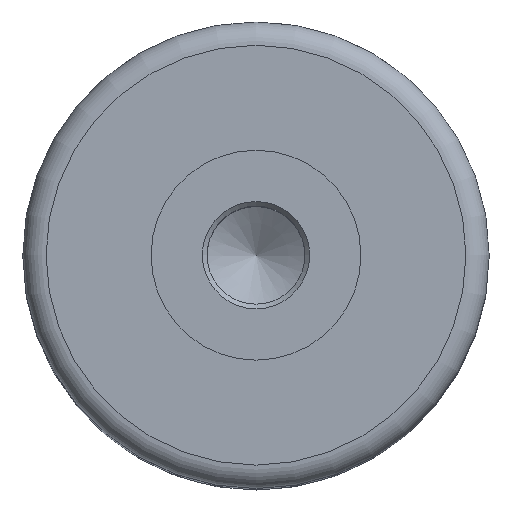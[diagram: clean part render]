
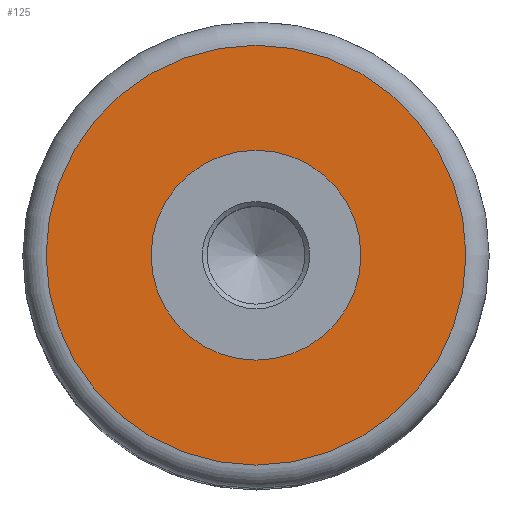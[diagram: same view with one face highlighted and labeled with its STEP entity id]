
A CAD part, top view. The second image highlights one B-rep face of the part: STEP entity #125.
In plain terms, the highlighted planar face has unit normal (0, 0, 1).
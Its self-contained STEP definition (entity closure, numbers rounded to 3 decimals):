
#125=ADVANCED_FACE('',(#219,#220),#221,.T.);
#219=FACE_BOUND('',#304,.T.);
#220=FACE_OUTER_BOUND('',#305,.T.);
#221=PLANE('',#306);
#304=EDGE_LOOP('',(#409));
#305=EDGE_LOOP('',(#410));
#306=AXIS2_PLACEMENT_3D('',#411,#412,#413);
#409=ORIENTED_EDGE('',*,*,#472,.F.);
#410=ORIENTED_EDGE('',*,*,#469,.T.);
#411=CARTESIAN_POINT('',(0.0,0.0,20.0));
#412=DIRECTION('',(0.0,0.0,1.0));
#413=DIRECTION('',(1.0,0.0,0.0));
#469=EDGE_CURVE('',#521,#521,#522,.T.);
#472=EDGE_CURVE('',#526,#526,#527,.T.);
#521=VERTEX_POINT('',#733);
#522=CIRCLE('',#734,9.0);
#526=VERTEX_POINT('',#738);
#527=CIRCLE('',#739,4.5);
#733=CARTESIAN_POINT('',(9.0,0.0,20.0));
#734=AXIS2_PLACEMENT_3D('',#788,#789,#790);
#738=CARTESIAN_POINT('',(4.5,0.0,20.0));
#739=AXIS2_PLACEMENT_3D('',#794,#795,#796);
#788=CARTESIAN_POINT('',(0.0,0.0,20.0));
#789=DIRECTION('',(0.0,0.0,1.0));
#790=DIRECTION('',(1.0,0.0,0.0));
#794=CARTESIAN_POINT('',(0.0,0.0,20.0));
#795=DIRECTION('',(0.0,0.0,1.0));
#796=DIRECTION('',(1.0,0.0,0.0));
